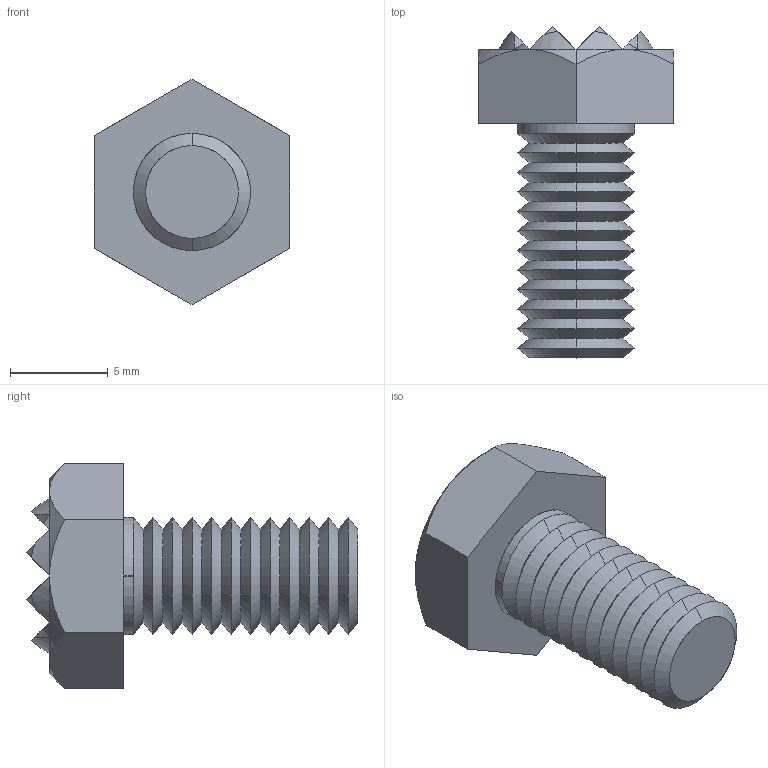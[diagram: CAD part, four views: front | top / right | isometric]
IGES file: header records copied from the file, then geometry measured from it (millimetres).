
Start section: SolidWorks IGES file using analytic representation for surfaces
Global section: file name: C:\Documents and Settings\IANO\Desktop\Temp File\Process pending\NEW\35400_v2\35400_v2_20170704_IGES\35400.W0001.igs; native system: SolidWorks 2009; preprocessor: SolidWorks 2009; author: IANO; date: 170703.082004; units: millimetre
Bounding box: 10 x 17 x 11.55 mm (x, y, z)
Surface area: 633.3 mm2 (no closed solid volume)
Topology: 0 solids, 0 shells, 124 faces, 649 edges, 649 vertices
Faces by surface type: revolution 67, bspline 57
